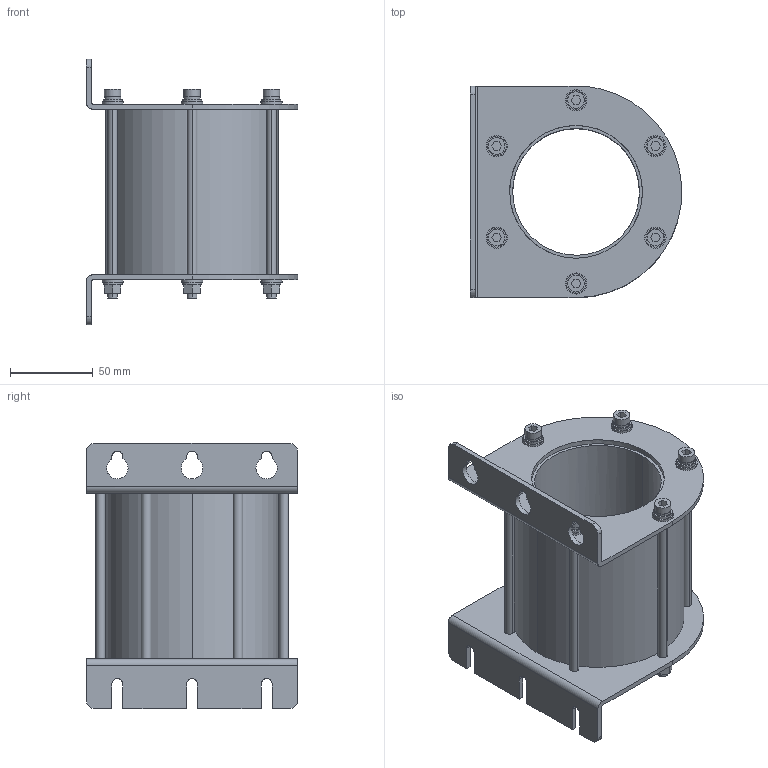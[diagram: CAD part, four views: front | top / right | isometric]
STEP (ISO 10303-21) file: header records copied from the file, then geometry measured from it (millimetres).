
FILE_DESCRIPTION(('STEP AP242'),'1');
FILE_NAME('vw3a5503.stp','2021-09-28T14:57:41',('TraceParts'),('TraceParts S.A.'),'Spatial InterOp 3D',' ',' ');
FILE_SCHEMA(('AP242_MANAGED_MODEL_BASED_3D_ENGINEERING_MIM_LF {1 0 10303 442 1 1 4}'));
Length unit declared in the file: millimetre
Products named in the file (1): vw3a5503
Bounding box: 127.43 x 127.5 x 160 mm (x, y, z)
Volume: 487458.1 mm3; surface area: 120388.8 mm2
Topology: 1 solids, 1 shells, 349 faces, 813 edges, 518 vertices
Faces by surface type: plane 223, bspline 126
Entity records: 13176 total; most frequent: CARTESIAN_POINT 6065, ORIENTED_EDGE 1626, DIRECTION 1079, EDGE_CURVE 813, VERTEX_POINT 518, EDGE_LOOP 421, AXIS2_PLACEMENT_3D 376, ADVANCED_FACE 349
